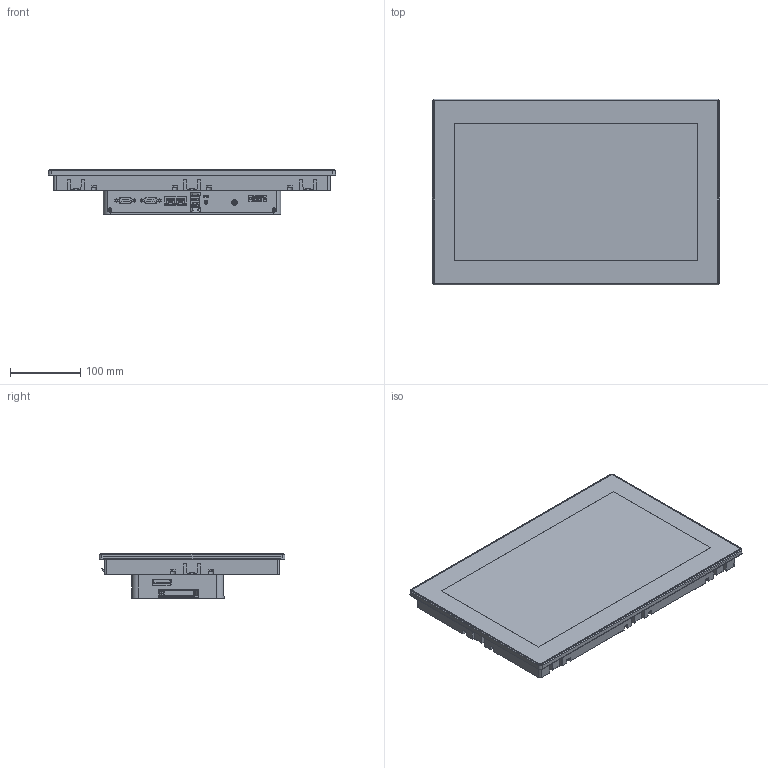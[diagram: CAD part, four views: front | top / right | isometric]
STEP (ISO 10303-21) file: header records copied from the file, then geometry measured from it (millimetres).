
FILE_DESCRIPTION(('STEP AP214'),'1');
FILE_NAME('HMI_15W_WXGA_DC_3D-simpl_TK_UPDATE.stp','2025-10-23T01:56:57',(' '),(' '),'Spatial InterOp 3D',' ',' ');
FILE_SCHEMA(('AUTOMOTIVE_DESIGN { 1 0 10303 214 1 1 1 1 }'));
Length unit declared in the file: metre
Products named in the file (5): HMI_15W_WXGA_DC_3D-simpl_TK_UPDATE; Component1; Component2; Component3
Assembly tree (4 placements, depth 3):
  HMI_15W_WXGA_DC_3D-simpl_TK_UPDATE
    HMI_15W_WXGA_DC_3D-simpl_TK_UPDATE
      Component1
      Component2
      Component3
Bounding box: 408 x 264 x 64.28 mm (x, y, z)
Volume: 4018714.4 mm3; surface area: 321315.9 mm2
Topology: 3 solids, 22 shells, 2931 faces, 8028 edges, 5198 vertices
Faces by surface type: plane 1709, cylinder 765, cone 247, bspline 117, torus 54, sphere 39
Full cylindrical faces by diameter (mm): 0.99 x18, 2.5 x2, 2.8 x2, 2.845 x4, 4 x8, 5.6 x23, 6 x6, 8 x1, 8.454 x6
Entity records: 99964 total; most frequent: CARTESIAN_POINT 27758, ORIENTED_EDGE 15574, DIRECTION 13896, EDGE_CURVE 7787, VERTEX_POINT 5149, LINE 5118, VECTOR 5118, AXIS2_PLACEMENT_3D 4389
